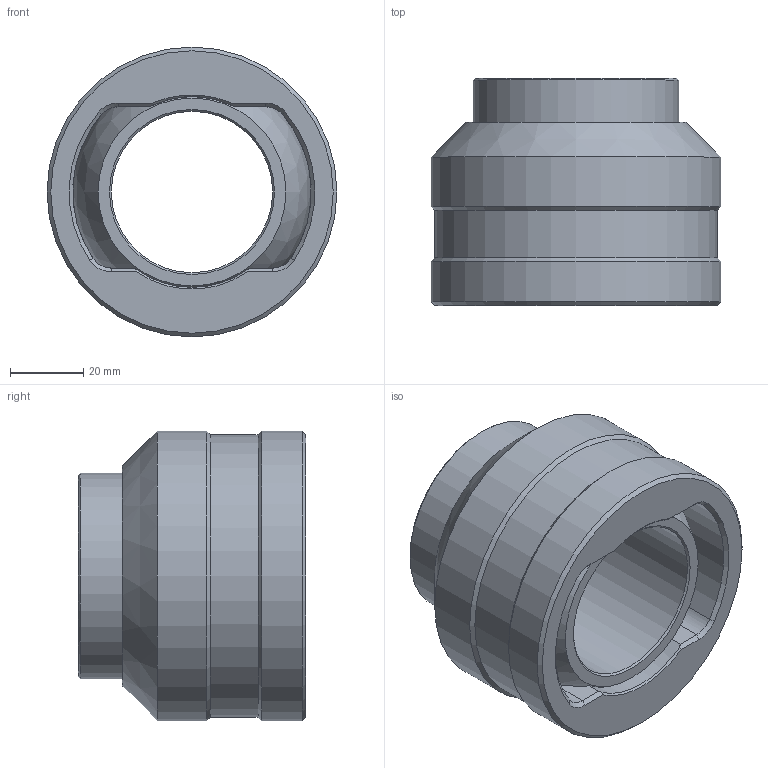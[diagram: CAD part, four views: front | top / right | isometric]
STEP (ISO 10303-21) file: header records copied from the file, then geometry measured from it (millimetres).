
FILE_DESCRIPTION(('STEP AP214'),'1');
FILE_NAME('C:/Projets/Serie 10.xx.xx/10.11.04.step','2011-11-10T15:39:10',(' '),(' '),'Spatial InterOp 3D',' ',' ');
FILE_SCHEMA(('automotive_design'));
Length unit declared in the file: metre
Products named in the file (3): boitier04; rotule 04; 1
Bounding box: 79 x 62 x 79 mm (x, y, z)
Volume: 149088.1 mm3; surface area: 44399.9 mm2
Topology: 2 solids, 2 shells, 45 faces, 501 edges, 860 vertices
Faces by surface type: cone 16, cylinder 14, plane 13, sphere 2
Full cylindrical faces by diameter (mm): 44 x1, 50 x1, 56 x1, 77 x1, 79 x2
Entity records: 6448 total; most frequent: CARTESIAN_POINT 666, DIRECTION 629, STYLED_ITEM 445, PRESENTATION_STYLE_ASSIGNMENT 445, COLOUR_RGB 445, LINE 419, VECTOR 419, TRIMMED_CURVE 400
